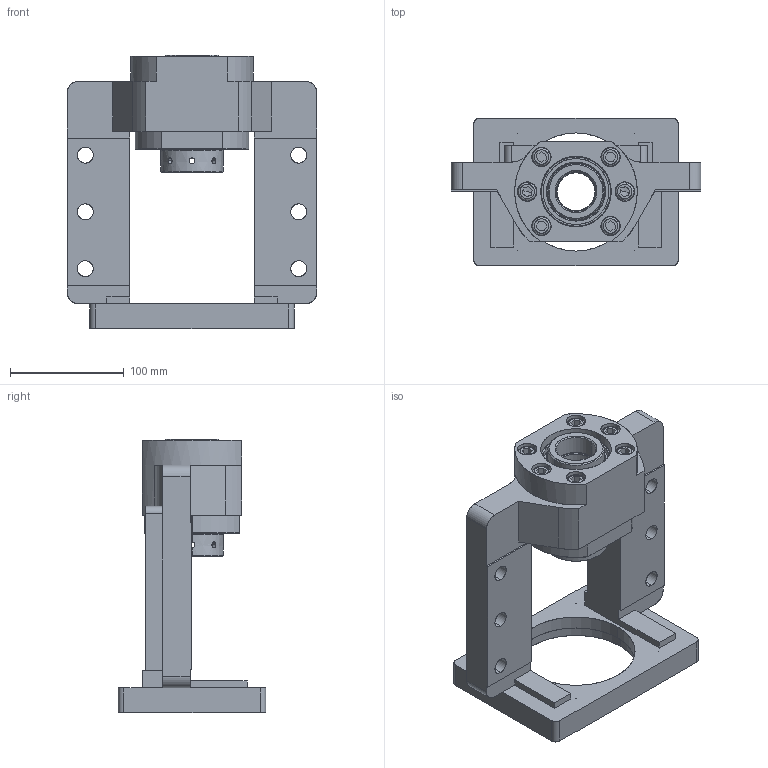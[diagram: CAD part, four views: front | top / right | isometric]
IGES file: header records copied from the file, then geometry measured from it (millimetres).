
Start section: SolidWorks IGES file using analytic representation for surfaces
Bounding box: 220 x 130 x 241 mm (x, y, z)
Surface area: 224140.5 mm2 (no closed solid volume)
Topology: 0 solids, 0 shells, 352 faces, 6896 edges, 6884 vertices
Faces by surface type: revolution 194, bspline 158
